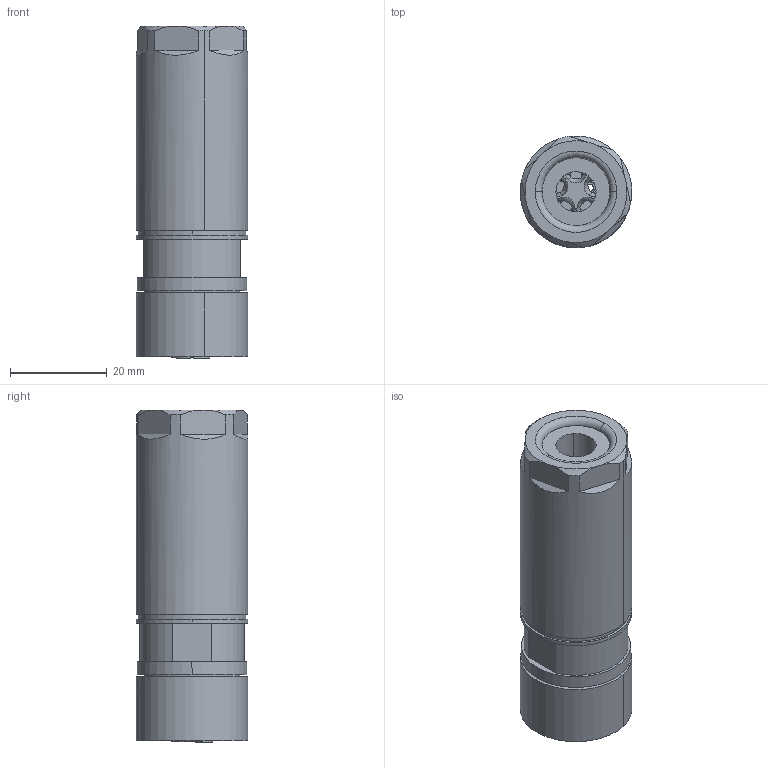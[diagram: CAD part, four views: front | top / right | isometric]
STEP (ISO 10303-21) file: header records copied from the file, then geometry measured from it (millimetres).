
FILE_DESCRIPTION(('Creo Elements/Direct Modeling STEP Export'),'2;1');
FILE_NAME('C:/temp/JobSpoolerServerData/JobServer Files/363161b8-263e-44df-bc26-e2de0babc09d/work/output/model.stp','2020-03-31T15:41:18',(''),(''),'Creo Elements/Direct Modeling STEP processor for AP214 (Solid Model)','Creo Elements/Direct Modeling 20.1A 29-Sep-2018 (C) Parametric Technology GmbH','');
FILE_SCHEMA(('AUTOMOTIVE_DESIGN { 1 0 10303 214 1 1 1 1 }'));
Length unit declared in the file: millimetre
Products named in the file (3): SACC_FL_4PL-select; SACC_M12FS-select; SACC_M12FSL_4PL_CM_SH-select
Assembly tree (2 placements, depth 2):
  SACC_M12FSL_4PL_CM_SH-select
    SACC_M12FS-select
    SACC_FL_4PL-select
Bounding box: 23 x 23 x 68.5 mm (x, y, z)
Volume: 20626.1 mm3; surface area: 12707.9 mm2
Topology: 2 solids, 2 shells, 537 faces, 1473 edges, 975 vertices
Faces by surface type: plane 300, cylinder 167, cone 37, torus 23, extrusion 10
Entity records: 23067 total; most frequent: CARTESIAN_POINT 7512, ORIENTED_EDGE 2946, DIRECTION 2612, EDGE_CURVE 1473, VERTEX_POINT 975, VECTOR 878, LINE 868, AXIS2_PLACEMENT_3D 867
